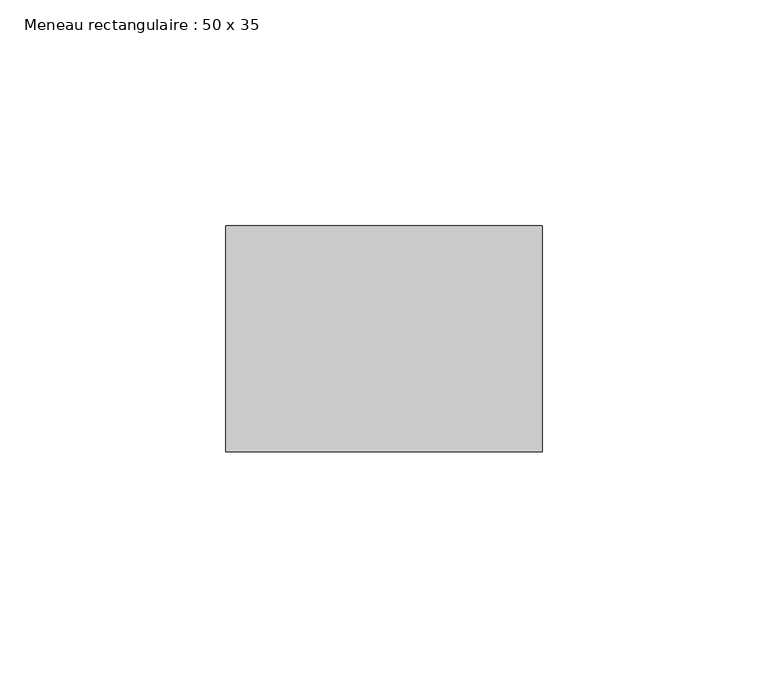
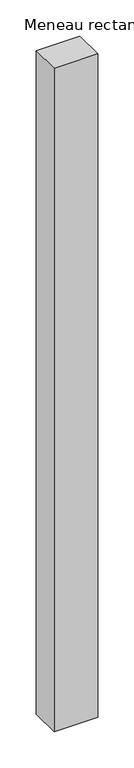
"""IFC4 building model written with IfcOpenShell, lengths in millimetres: member geometry, Meneau rectangulaire : 50 x 35."""

from ifc_helpers import new_model, si_unit, frame, origin, place, context, project, spatial, polyline, outline, extrude, source, transform, mapped, element, save


def meneau_rectangulaire_50_x_35_81ae14ec(model_context):
    return source(origin(), model_context, "Body", "SweptSolid", [
        extrude(outline(polyline([(35.0, 0.0), (35.0, -50.0), (-35.0, -50.0), (-35.0, 0.0), (35.0, 0.0)])), frame((0.0, 0.0, -1123.6009201), z_axis=(0.0, 0.0, 1.0), x_axis=(1.0, 0.0, 0.0)), (0.0, 0.0, 1.0), 1123.6009201),
    ])


if __name__ == "__main__":
    model = new_model("IFC4")
    model_context = context("Model", 3, world=origin())
    ifc_project = project(units=[si_unit("LENGTHUNIT", "METRE", prefix="MILLI")], contexts=[model_context])
    site = spatial("IfcSite", under=ifc_project)
    building = spatial("IfcBuilding", under=site)
    placement = place(None, origin())
    meneau_rectangulaire_50_x_35_shape = meneau_rectangulaire_50_x_35_81ae14ec(model_context)
    element("IfcMember", 1, ObjectType="Meneau rectangulaire : 50 x 35", at=placement, inside=building, context=model_context, shape_type="MappedRepresentation", body=[
        mapped(meneau_rectangulaire_50_x_35_shape, transform((0.0, 0.0, 0.0), x_axis=(1.0, 0.0, 0.0), y_axis=(0.0, 1.0, 0.0), z_axis=(0.0, 0.0, 1.0))),
    ])
    save(model, "model.ifc")
